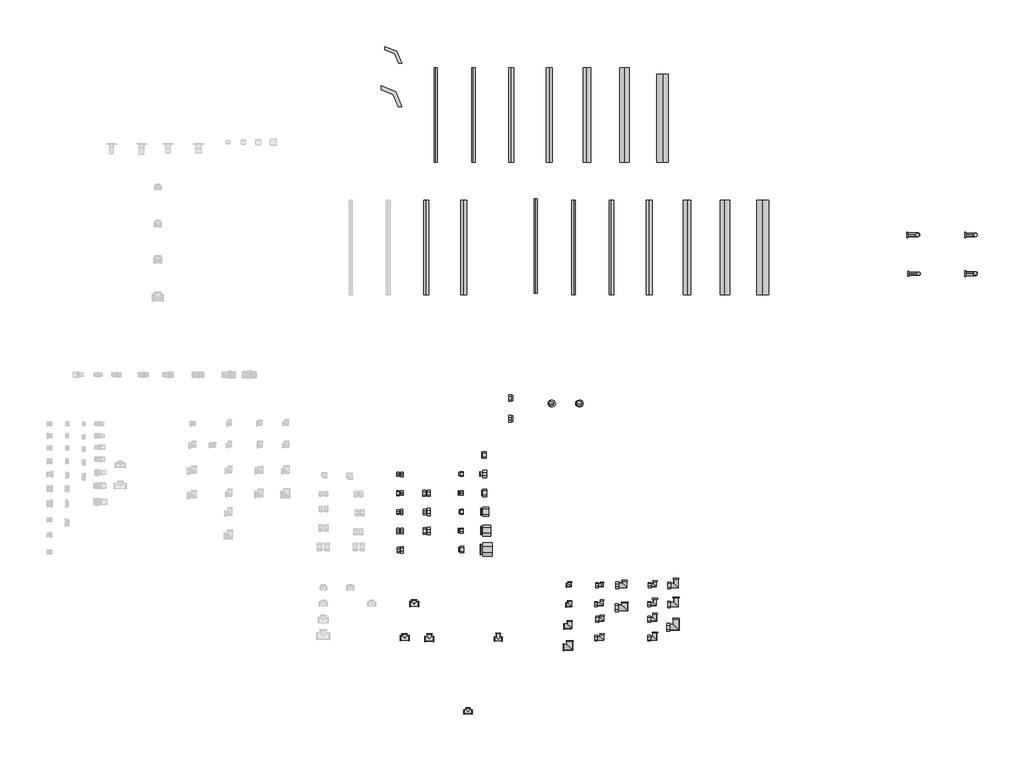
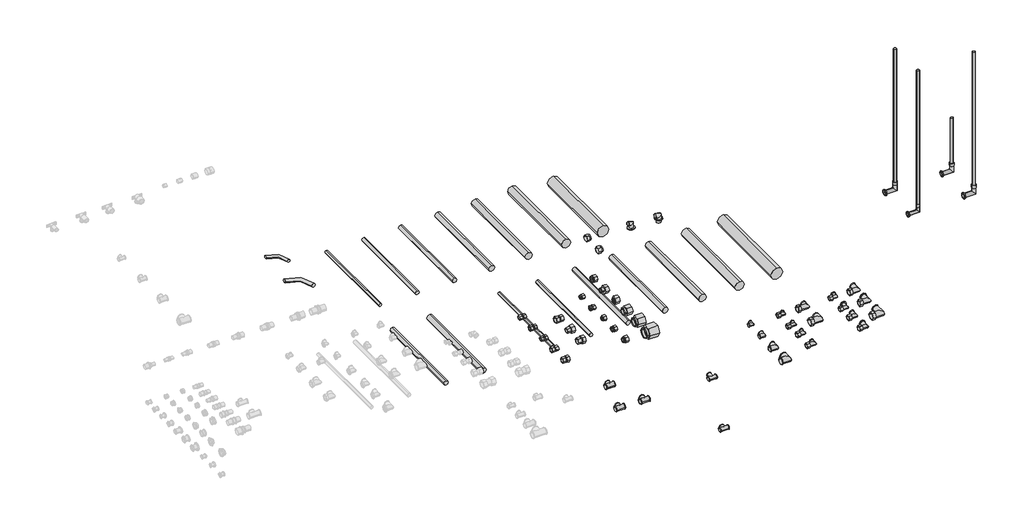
# One storey, part 2 of 2: 51 pipe fittings, 16 pipe segments.
"""IFC4 building model written with IfcOpenShell, lengths in millimetres."""

from ifc_helpers import new_model, si_unit, point, frame, frame_2d, origin, place, context, project, spatial, circle_curve, trimmed, segment, composite_curve, outline, extrude, transform, mapped, element, save
from components import pipe_fitting_9c1fe3d9, pipe_fitting_45a50b9d, pipe_fitting_a80298d2, pipe_fitting_690a4b69, pipe_fitting_7ec8b6cb, pipe_fitting_b8bb4d7d, pipe_fitting_d29ec8fa, pipe_fitting_c2aa8467, pipe_fitting_2d6e3a8b, pipe_fitting_7a30f251, pipe_fitting_783c9a87, pipe_fitting_5943d820, pipe_fitting_86cad487, pipe_fitting_5934a53c, pipe_fitting_7b19bd0a, pipe_fitting_65bbaa9c, pipe_fitting_54f7dc69, pipe_fitting_9e4dff9f, pipe_fitting_29d12cfd, pipe_fitting_99de46e3, pipe_fitting_2f3a7cc1, pipe_fitting_cb1ef815, pipe_fitting_f76eb3f4, pipe_fitting_43e11729, pipe_fitting_011efccd, pipe_fitting_cc2375a5, pipe_fitting_0f83558a, pipe_fitting_cd237506, pipe_fitting_084f18e1, pipe_fitting_0a08baca, pipe_fitting_afb65204, pipe_fitting_59298400, pipe_fitting_e6d99b17, pipe_fitting_ef594ddb, pipe_fitting_aac3be58, pipe_fitting_8643bd3e, pipe_fitting_bd96d94c, pipe_fitting_d6f7a5c7, pipe_fitting_07bd043f, pipe_fitting_ef469d3b, pipe_fitting_f7e817d6, pipe_fitting_8d19de3b, pipe_fitting_2b076fd0, pipe_fitting_389e3f89, pipe_fitting_b718b052, pipe_fitting_8d315068, pipe_fitting_1a4a2833, pipe_fitting_15_l300_x_20_2_8_8d4dec9b, pipe_fitting_15_l800_x_16_2_2_a7591855, pipe_fitting_15_l800_x_20_2_8_a4898562

model = new_model("IFC4")

# Units and contexts
model_context = context("Model", 3, world=origin())
ifc_project = project(units=[si_unit("LENGTHUNIT", "METRE", prefix="MILLI")], contexts=[model_context])

# Site, building, storey
site = spatial("IfcSite", under=ifc_project)
building = spatial("IfcBuilding", under=site)
storey = spatial("IfcBuildingStorey", under=building, Name="Уровень 1", Elevation=0.0)

# Pipe fittings
placement = place(None, origin())
pipe_fitting_shape = pipe_fitting_9c1fe3d9(model_context)
element("IfcPipeFitting", 1, ObjectType="БИР ПЕКС_Изгиб трубопровода_5D : Изгиб", at=placement, inside=storey, context=model_context, shape_type="MappedRepresentation", body=[
    mapped(pipe_fitting_shape, transform((25.6390292, 4800.8531594, 0.0), x_axis=(0.0, 1.0000000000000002, 0.0), y_axis=(-1.0000000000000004, 0.0, 0.0), z_axis=(0.0, 0.0, 1.0000000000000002))),
])
pipe_fitting_2_shape = pipe_fitting_45a50b9d(model_context)
element("IfcPipeFitting", 2, ObjectType="БИР ПЕКС_КМП_Фитинг уплотнительный_Евроконус : Фитинг уплотнительный_Евроконус", at=placement, inside=storey, context=model_context, shape_type="MappedRepresentation", body=[
    mapped(pipe_fitting_2_shape, transform((622.0708167, 3160.0827159, 1000.0), x_axis=(1.0, 0.0, 0.0), y_axis=(0.0, 1.0, 0.0), z_axis=(0.0, 0.0, 1.0))),
])
pipe_fitting_3_shape = pipe_fitting_a80298d2(model_context)
element("IfcPipeFitting", 3, ObjectType="БИР ПЕКС_КМП_Угольник установочный 105 : Угольник установочный 105° 1/2\" х 16 (2,2)", at=placement, inside=storey, context=model_context, shape_type="MappedRepresentation", body=[
    mapped(pipe_fitting_3_shape, transform((828.374765, 3130.3924607, 1000.0), x_axis=(1.0, 0.0, 0.0), y_axis=(0.0, 1.0, 0.0), z_axis=(0.0, 0.0, 1.0))),
])
pipe_fitting_4_shape = pipe_fitting_690a4b69(model_context)
element("IfcPipeFitting", 4, ObjectType="БИР ПЕКС_КМП_Угольник установочный 100 : Угольник установочный 100° 1/2\" х 20 (2,8)", at=placement, inside=storey, context=model_context, shape_type="MappedRepresentation", body=[
    mapped(pipe_fitting_4_shape, transform((975.9171353, 3130.3924607, 1000.0), x_axis=(1.0, 0.0, 0.0), y_axis=(0.0, 1.0, 0.0), z_axis=(0.0, 0.0, 1.0))),
])
pipe_fitting_5_shape = pipe_fitting_7ec8b6cb(model_context)
element("IfcPipeFitting", 5, ObjectType="БИР ПЕКС_Изгиб трубопровода_5D : Изгиб", at=placement, inside=storey, context=model_context, shape_type="MappedRepresentation", body=[
    mapped(pipe_fitting_5_shape, transform((25.6390292, 5010.8531594, 0.0), x_axis=(0.0, 1.0000000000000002, 0.0), y_axis=(-1.0000000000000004, 0.0, 0.0), z_axis=(0.0, 0.0, 1.0000000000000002))),
])
pipe_fitting_6_shape = pipe_fitting_b8bb4d7d(model_context)
element("IfcPipeFitting", 6, ObjectType="БИР ПЕКС_КМП_Соединитель_Резьба_Внутренняя : Соединитель прямой с внутренней резьбой_КМП", at=placement, inside=storey, context=model_context, shape_type="MappedRepresentation", body=[
    mapped(pipe_fitting_6_shape, transform((28.7080397, 2756.0051645, 1000.0), x_axis=(1.0, 0.0, 0.0), y_axis=(0.0, 1.0, 0.0), z_axis=(0.0, 0.0, 1.0))),
])
pipe_fitting_7_shape = pipe_fitting_d29ec8fa(model_context)
element("IfcPipeFitting", 7, ObjectType="БИР ПЕКС_КМП_Соединитель_Резьба_Внутренняя : Соединитель прямой с внутренней резьбой_КМП", at=placement, inside=storey, context=model_context, shape_type="MappedRepresentation", body=[
    mapped(pipe_fitting_7_shape, transform((28.7080397, 2656.0051645, 1000.0), x_axis=(1.0, 0.0, 0.0), y_axis=(0.0, 1.0, 0.0), z_axis=(0.0, 0.0, 1.0))),
])
pipe_fitting_8_shape = pipe_fitting_c2aa8467(model_context)
element("IfcPipeFitting", 8, ObjectType="БИР ПЕКС_КМП_Соединитель_Резьба_Внутренняя : Соединитель прямой с внутренней резьбой_КМП", at=placement, inside=storey, context=model_context, shape_type="MappedRepresentation", body=[
    mapped(pipe_fitting_8_shape, transform((28.7080397, 2556.0051645, 1000.0), x_axis=(1.0, 0.0, 0.0), y_axis=(0.0, 1.0, 0.0), z_axis=(0.0, 0.0, 1.0))),
])
pipe_fitting_9_shape = pipe_fitting_2d6e3a8b(model_context)
element("IfcPipeFitting", 9, ObjectType="БИР ПЕКС_КМП_Соединитель_Резьба_Внутренняя : Соединитель прямой с внутренней резьбой_КМП", at=placement, inside=storey, context=model_context, shape_type="MappedRepresentation", body=[
    mapped(pipe_fitting_9_shape, transform((28.7080397, 2456.0051645, 1000.0), x_axis=(1.0, 0.0, 0.0), y_axis=(0.0, 1.0, 0.0), z_axis=(0.0, 0.0, 1.0))),
])
pipe_fitting_10_shape = pipe_fitting_7a30f251(model_context)
element("IfcPipeFitting", 10, ObjectType="БИР ПЕКС_КМП_Соединитель_Резьба_Внутренняя : Соединитель прямой с внутренней резьбой_КМП", at=placement, inside=storey, context=model_context, shape_type="MappedRepresentation", body=[
    mapped(pipe_fitting_10_shape, transform((168.7080397, 2456.0051645, 1000.0), x_axis=(1.0, 0.0, 0.0), y_axis=(0.0, 1.0, 0.0), z_axis=(0.0, 0.0, 1.0))),
])
pipe_fitting_11_shape = pipe_fitting_783c9a87(model_context)
element("IfcPipeFitting", 11, ObjectType="БИР ПЕКС_КМП_Соединитель_Резьба_Внутренняя : Соединитель прямой с внутренней резьбой_КМП", at=placement, inside=storey, context=model_context, shape_type="MappedRepresentation", body=[
    mapped(pipe_fitting_11_shape, transform((168.7080397, 2556.0051645, 1000.0), x_axis=(1.0, 0.0, 0.0), y_axis=(0.0, 1.0, 0.0), z_axis=(0.0, 0.0, 1.0))),
])
pipe_fitting_12_shape = pipe_fitting_5943d820(model_context)
element("IfcPipeFitting", 12, ObjectType="БИР ПЕКС_КМП_Соединитель_Резьба_Внутренняя : Соединитель прямой с внутренней резьбой_КМП", at=placement, inside=storey, context=model_context, shape_type="MappedRepresentation", body=[
    mapped(pipe_fitting_12_shape, transform((168.7080397, 2656.0051645, 1000.0), x_axis=(1.0, 0.0, 0.0), y_axis=(0.0, 1.0, 0.0), z_axis=(0.0, 0.0, 1.0))),
])
pipe_fitting_13_shape = pipe_fitting_86cad487(model_context)
element("IfcPipeFitting", 13, ObjectType="БИР ПЕКС_КМП_Тройник ПЕКС : Тройник ПЕКС_КМП", at=placement, inside=storey, context=model_context, shape_type="MappedRepresentation", body=[
    mapped(pipe_fitting_13_shape, transform((99.8353821, 2069.3567431, 1000.0), x_axis=(1.0, 0.0, 0.0), y_axis=(0.0, 1.0, 0.0), z_axis=(0.0, 0.0, 1.0))),
])
pipe_fitting_14_shape = pipe_fitting_5934a53c(model_context)
element("IfcPipeFitting", 14, ObjectType="БИР ПЕКС_КМП_Тройник ПЕКС : Тройник ПЕКС_КМП", at=placement, inside=storey, context=model_context, shape_type="MappedRepresentation", body=[
    mapped(pipe_fitting_14_shape, transform((49.8353821, 1889.3567431, 1000.0), x_axis=(1.0, 0.0, 0.0), y_axis=(0.0, 1.0, 0.0), z_axis=(0.0, 0.0, 1.0))),
])
pipe_fitting_15_shape = pipe_fitting_7b19bd0a(model_context)
element("IfcPipeFitting", 15, ObjectType="БИР ПЕКС_КМП_Тройник ПЕКС : Тройник ПЕКС_КМП", at=placement, inside=storey, context=model_context, shape_type="MappedRepresentation", body=[
    mapped(pipe_fitting_15_shape, transform((180.8353821, 1885.3567431, 1000.0), x_axis=(1.0, 0.0, 0.0), y_axis=(0.0, 1.0, 0.0), z_axis=(0.0, 0.0, 1.0))),
])
pipe_fitting_16_shape = pipe_fitting_65bbaa9c(model_context)
element("IfcPipeFitting", 16, ObjectType="БИР ПЕКС_КМП_Тройник_НР : Тройник с наружной резьбой_КМП", at=placement, inside=storey, context=model_context, shape_type="MappedRepresentation", body=[
    mapped(pipe_fitting_16_shape, transform((545.1064616, 1884.4957117, 1000.0), x_axis=(1.0, 0.0, 0.0), y_axis=(0.0, 1.0, 0.0), z_axis=(0.0, 0.0, 1.0))),
])
pipe_fitting_17_shape = pipe_fitting_54f7dc69(model_context)
element("IfcPipeFitting", 17, ObjectType="БИР ПЕКС_КМП_Тройник_ВР : Тройник с внутренней резьбой_КМП", at=placement, inside=storey, context=model_context, shape_type="MappedRepresentation", body=[
    mapped(pipe_fitting_17_shape, transform((385.4136132, 1499.6853816, 1000.0), x_axis=(1.0, 0.0, 0.0), y_axis=(0.0, 1.0, 0.0), z_axis=(0.0, 0.0, 1.0))),
])
pipe_fitting_18_shape = pipe_fitting_9e4dff9f(model_context)
element("IfcPipeFitting", 18, ObjectType="БИР ПЕКС_КМП_Соединитель_Резьба_Наружная : Соединитель прямой с наружной резьбой_КМП", at=placement, inside=storey, context=model_context, shape_type="MappedRepresentation", body=[
    mapped(pipe_fitting_18_shape, transform((344.2739988, 2757.8918498, 1000.0), x_axis=(1.0, 0.0, 0.0), y_axis=(0.0, 1.0, 0.0), z_axis=(0.0, 0.0, 1.0))),
])
pipe_fitting_19_shape = pipe_fitting_29d12cfd(model_context)
element("IfcPipeFitting", 19, ObjectType="БИР ПЕКС_КМП_Соединитель_Резьба_Наружная : Соединитель прямой с наружной резьбой_КМП", at=placement, inside=storey, context=model_context, shape_type="MappedRepresentation", body=[
    mapped(pipe_fitting_19_shape, transform((344.2739988, 2657.8918498, 1000.0), x_axis=(1.0, 0.0, 0.0), y_axis=(0.0, 1.0, 0.0), z_axis=(0.0, 0.0, 1.0))),
])
pipe_fitting_20_shape = pipe_fitting_99de46e3(model_context)
element("IfcPipeFitting", 20, ObjectType="БИР ПЕКС_КМП_Соединитель_Резьба_Наружная : Соединитель прямой с наружной резьбой_КМП", at=placement, inside=storey, context=model_context, shape_type="MappedRepresentation", body=[
    mapped(pipe_fitting_20_shape, transform((344.2739988, 2557.8918498, 1000.0), x_axis=(1.0, 0.0, 0.0), y_axis=(0.0, 1.0, 0.0), z_axis=(0.0, 0.0, 1.0))),
])
pipe_fitting_21_shape = pipe_fitting_2f3a7cc1(model_context)
element("IfcPipeFitting", 21, ObjectType="БИР ПЕКС_КМП_Соединитель_Резьба_Наружная : Соединитель прямой с наружной резьбой_КМП", at=placement, inside=storey, context=model_context, shape_type="MappedRepresentation", body=[
    mapped(pipe_fitting_21_shape, transform((344.2739988, 2457.8918498, 1000.0), x_axis=(1.0, 0.0, 0.0), y_axis=(0.0, 1.0, 0.0), z_axis=(0.0, 0.0, 1.0))),
])
pipe_fitting_22_shape = pipe_fitting_cb1ef815(model_context)
element("IfcPipeFitting", 22, ObjectType="БИР ПЕКС_КМП_Соединитель_Резьба_Наружная : Соединитель прямой с наружной резьбой_КМП", at=placement, inside=storey, context=model_context, shape_type="MappedRepresentation", body=[
    mapped(pipe_fitting_22_shape, transform((464.2739988, 2357.8918498, 1000.0), x_axis=(1.0, 0.0, 0.0), y_axis=(0.0, 1.0, 0.0), z_axis=(0.0, 0.0, 1.0))),
])
pipe_fitting_23_shape = pipe_fitting_f76eb3f4(model_context)
element("IfcPipeFitting", 23, ObjectType="БИР ПЕКС_КМП_Соединитель_Резьба_Наружная : Соединитель прямой с наружной резьбой_КМП", at=placement, inside=storey, context=model_context, shape_type="MappedRepresentation", body=[
    mapped(pipe_fitting_23_shape, transform((464.2739988, 2457.8918498, 1000.0), x_axis=(1.0, 0.0, 0.0), y_axis=(0.0, 1.0, 0.0), z_axis=(0.0, 0.0, 1.0))),
])
pipe_fitting_24_shape = pipe_fitting_43e11729(model_context)
element("IfcPipeFitting", 24, ObjectType="БИР ПЕКС_КМП_Соединитель_Резьба_Наружная : Соединитель прямой с наружной резьбой_КМП", at=placement, inside=storey, context=model_context, shape_type="MappedRepresentation", body=[
    mapped(pipe_fitting_24_shape, transform((464.2739988, 2557.8918498, 1000.0), x_axis=(1.0, 0.0, 0.0), y_axis=(0.0, 1.0, 0.0), z_axis=(0.0, 0.0, 1.0))),
])
pipe_fitting_25_shape = pipe_fitting_011efccd(model_context)
element("IfcPipeFitting", 25, ObjectType="БИР ПЕКС_КМП_Соединитель_Резьба_Наружная : Соединитель прямой с наружной резьбой_КМП", at=placement, inside=storey, context=model_context, shape_type="MappedRepresentation", body=[
    mapped(pipe_fitting_25_shape, transform((464.2739988, 2657.8918498, 1000.0), x_axis=(1.0, 0.0, 0.0), y_axis=(0.0, 1.0, 0.0), z_axis=(0.0, 0.0, 1.0))),
])
pipe_fitting_26_shape = pipe_fitting_cc2375a5(model_context)
element("IfcPipeFitting", 26, ObjectType="БИР ПЕКС_КМП_Соединитель_Резьба_Наружная : Соединитель прямой с наружной резьбой_КМП", at=placement, inside=storey, context=model_context, shape_type="MappedRepresentation", body=[
    mapped(pipe_fitting_26_shape, transform((464.2739988, 2757.8918498, 1000.0), x_axis=(1.0, 0.0, 0.0), y_axis=(0.0, 1.0, 0.0), z_axis=(0.0, 0.0, 1.0))),
])
pipe_fitting_27_shape = pipe_fitting_0f83558a(model_context)
element("IfcPipeFitting", 27, ObjectType="БИР ПЕКС_КМП_Соединитель_Резьба_Наружная : Соединитель прямой с наружной резьбой_КМП", at=placement, inside=storey, context=model_context, shape_type="MappedRepresentation", body=[
    mapped(pipe_fitting_27_shape, transform((464.2739988, 2857.8918498, 1000.0), x_axis=(1.0, 0.0, 0.0), y_axis=(0.0, 1.0, 0.0), z_axis=(0.0, 0.0, 1.0))),
])
pipe_fitting_28_shape = pipe_fitting_cd237506(model_context)
element("IfcPipeFitting", 28, ObjectType="БИР ПЕКС_КМП_Угольник ПЕКС : Угольник ПЕКС_КМП", at=placement, inside=storey, context=model_context, shape_type="MappedRepresentation", body=[
    mapped(pipe_fitting_28_shape, transform((922.7062053, 2169.2332983, 1000.0), x_axis=(1.0, 0.0, 0.0), y_axis=(0.0, 1.0, 0.0), z_axis=(0.0, 0.0, 1.0))),
])
pipe_fitting_29_shape = pipe_fitting_084f18e1(model_context)
element("IfcPipeFitting", 29, ObjectType="БИР ПЕКС_КМП_Угольник ПЕКС : Угольник ПЕКС_КМП", at=placement, inside=storey, context=model_context, shape_type="MappedRepresentation", body=[
    mapped(pipe_fitting_29_shape, transform((922.7062053, 1951.9883048, 1000.0), x_axis=(1.0, 0.0, 0.0), y_axis=(0.0, 1.0, 0.0), z_axis=(0.0, 0.0, 1.0))),
])
pipe_fitting_30_shape = pipe_fitting_0a08baca(model_context)
element("IfcPipeFitting", 30, ObjectType="БИР ПЕКС_КМП_Угольник ПЕКС : Угольник ПЕКС_КМП", at=placement, inside=storey, context=model_context, shape_type="MappedRepresentation", body=[
    mapped(pipe_fitting_30_shape, transform((922.7062053, 1841.4906367, 1000.0), x_axis=(1.0, 0.0, 0.0), y_axis=(0.0, 1.0, 0.0), z_axis=(0.0, 0.0, 1.0))),
])
pipe_fitting_31_shape = pipe_fitting_afb65204(model_context)
element("IfcPipeFitting", 31, ObjectType="БИР ПЕКС_КМП_Угольник_Резьба_Внутренняя : Угольник с внутренней резьбой_КМП", at=placement, inside=storey, context=model_context, shape_type="MappedRepresentation", body=[
    mapped(pipe_fitting_31_shape, transform((1093.5981677, 2169.2332983, 1000.0), x_axis=(1.0, 0.0, 0.0), y_axis=(0.0, 1.0, 0.0), z_axis=(0.0, 0.0, 1.0))),
])
pipe_fitting_32_shape = pipe_fitting_59298400(model_context)
element("IfcPipeFitting", 32, ObjectType="БИР ПЕКС_КМП_Угольник_Резьба_Внутренняя : Угольник с внутренней резьбой_КМП", at=placement, inside=storey, context=model_context, shape_type="MappedRepresentation", body=[
    mapped(pipe_fitting_32_shape, transform((1093.5981677, 1889.2332983, 1000.0), x_axis=(1.0, 0.0, 0.0), y_axis=(0.0, 1.0, 0.0), z_axis=(0.0, 0.0, 1.0))),
])
pipe_fitting_33_shape = pipe_fitting_e6d99b17(model_context)
element("IfcPipeFitting", 33, ObjectType="БИР ПЕКС_КМП_Угольник_Резьба_Внутренняя : Угольник с внутренней резьбой_КМП", at=placement, inside=storey, context=model_context, shape_type="MappedRepresentation", body=[
    mapped(pipe_fitting_33_shape, transform((1093.5981677, 1989.2332983, 1000.0), x_axis=(1.0, 0.0, 0.0), y_axis=(0.0, 1.0, 0.0), z_axis=(0.0, 0.0, 1.0))),
])
pipe_fitting_34_shape = pipe_fitting_ef594ddb(model_context)
element("IfcPipeFitting", 34, ObjectType="БИР ПЕКС_КМП_Угольник_Резьба_Внутренняя : Угольник с внутренней резьбой_КМП", at=placement, inside=storey, context=model_context, shape_type="MappedRepresentation", body=[
    mapped(pipe_fitting_34_shape, transform((1213.5981677, 2169.2332983, 1000.0), x_axis=(1.0, 0.0, 0.0), y_axis=(0.0, 1.0, 0.0), z_axis=(0.0, 0.0, 1.0))),
])
pipe_fitting_35_shape = pipe_fitting_aac3be58(model_context)
element("IfcPipeFitting", 35, ObjectType="БИР ПЕКС_КМП_Угольник_Резьба_Внутренняя : Угольник с внутренней резьбой_КМП", at=placement, inside=storey, context=model_context, shape_type="MappedRepresentation", body=[
    mapped(pipe_fitting_35_shape, transform((1213.5981677, 2049.2332983, 1000.0), x_axis=(1.0, 0.0, 0.0), y_axis=(0.0, 1.0, 0.0), z_axis=(0.0, 0.0, 1.0))),
])
pipe_fitting_36_shape = pipe_fitting_8643bd3e(model_context)
element("IfcPipeFitting", 36, ObjectType="БИР ПЕКС_КМП_Угольник_Резьба_Наружная : Угольник с наружной резьбой_КМП", at=placement, inside=storey, context=model_context, shape_type="MappedRepresentation", body=[
    mapped(pipe_fitting_36_shape, transform((1373.5981677, 2169.2332983, 1000.0), x_axis=(1.0, 0.0, 0.0), y_axis=(0.0, 1.0, 0.0), z_axis=(0.0, 0.0, 1.0))),
])
pipe_fitting_37_shape = pipe_fitting_bd96d94c(model_context)
element("IfcPipeFitting", 37, ObjectType="БИР ПЕКС_КМП_Угольник_Резьба_Наружная : Угольник с наружной резьбой_КМП", at=placement, inside=storey, context=model_context, shape_type="MappedRepresentation", body=[
    mapped(pipe_fitting_37_shape, transform((1373.5981677, 1889.2332983, 1000.0), x_axis=(1.0, 0.0, 0.0), y_axis=(0.0, 1.0, 0.0), z_axis=(0.0, 0.0, 1.0))),
])
pipe_fitting_38_shape = pipe_fitting_d6f7a5c7(model_context)
element("IfcPipeFitting", 38, ObjectType="БИР ПЕКС_КМП_Угольник_Резьба_Наружная : Угольник с наружной резьбой_КМП", at=placement, inside=storey, context=model_context, shape_type="MappedRepresentation", body=[
    mapped(pipe_fitting_38_shape, transform((1373.5981677, 1989.2332983, 1000.0), x_axis=(1.0, 0.0, 0.0), y_axis=(0.0, 1.0, 0.0), z_axis=(0.0, 0.0, 1.0))),
])
pipe_fitting_39_shape = pipe_fitting_07bd043f(model_context)
element("IfcPipeFitting", 39, ObjectType="БИР ПЕКС_КМП_Угольник_Резьба_Наружная : Угольник с наружной резьбой_КМП", at=placement, inside=storey, context=model_context, shape_type="MappedRepresentation", body=[
    mapped(pipe_fitting_39_shape, transform((1485.9801457, 2167.3884547, 1000.0), x_axis=(1.0, 0.0, 0.0), y_axis=(0.0, 1.0, 0.0), z_axis=(0.0, 0.0, 1.0))),
])
pipe_fitting_40_shape = pipe_fitting_ef469d3b(model_context)
element("IfcPipeFitting", 40, ObjectType="БИР ПЕКС_КМП_Угольник_Резьба_Наружная : Угольник с наружной резьбой_КМП", at=placement, inside=storey, context=model_context, shape_type="MappedRepresentation", body=[
    mapped(pipe_fitting_40_shape, transform((1485.9801457, 2067.3884547, 1000.0), x_axis=(1.0, 0.0, 0.0), y_axis=(0.0, 1.0, 0.0), z_axis=(0.0, 0.0, 1.0))),
])
pipe_fitting_41_shape = pipe_fitting_f7e817d6(model_context)
element("IfcPipeFitting", 41, ObjectType="БИР ПЕКС_КМП_Угольник_Резьба_Наружная : Угольник с наружной резьбой_КМП", at=placement, inside=storey, context=model_context, shape_type="MappedRepresentation", body=[
    mapped(pipe_fitting_41_shape, transform((1485.9801457, 1947.3884547, 1000.0), x_axis=(1.0, 0.0, 0.0), y_axis=(0.0, 1.0, 0.0), z_axis=(0.0, 0.0, 1.0))),
])
pipe_fitting_42_shape = pipe_fitting_8d19de3b(model_context)
element("IfcPipeFitting", 42, ObjectType="БИР ПЕКС_КМП_Фитинг уплотнительный_Евроконус : Фитинг уплотнительный_Евроконус", at=placement, inside=storey, context=model_context, shape_type="MappedRepresentation", body=[
    mapped(pipe_fitting_42_shape, transform((622.0708167, 3050.0827159, 1000.0), x_axis=(1.0, 0.0, 0.0), y_axis=(0.0, 1.0, 0.0), z_axis=(0.0, 0.0, 1.0))),
])
pipe_fitting_43_shape = pipe_fitting_2b076fd0(model_context)
element("IfcPipeFitting", 43, ObjectType="БИР ПЕКС_КМП_Соединитель_Резьба_Внутренняя : Соединитель прямой с внутренней резьбой_КМП", at=placement, inside=storey, context=model_context, shape_type="MappedRepresentation", body=[
    mapped(pipe_fitting_43_shape, transform((28.7080397, 2356.0051645, 1000.0), x_axis=(1.0, 0.0, 0.0), y_axis=(0.0, 1.0, 0.0), z_axis=(0.0, 0.0, 1.0))),
])
pipe_fitting_44_shape = pipe_fitting_389e3f89(model_context)
element("IfcPipeFitting", 44, ObjectType="БИР ПЕКС_КМП_Соединитель_Резьба_Наружная : Соединитель прямой с наружной резьбой_КМП", at=placement, inside=storey, context=model_context, shape_type="MappedRepresentation", body=[
    mapped(pipe_fitting_44_shape, transform((344.2739988, 2357.8918498, 1000.0), x_axis=(1.0, 0.0, 0.0), y_axis=(0.0, 1.0, 0.0), z_axis=(0.0, 0.0, 1.0))),
])
pipe_fitting_45_shape = pipe_fitting_b718b052(model_context)
element("IfcPipeFitting", 45, ObjectType="БИР ПЕКС_КМП_Угольник ПЕКС : Угольник ПЕКС_КМП", at=placement, inside=storey, context=model_context, shape_type="MappedRepresentation", body=[
    mapped(pipe_fitting_45_shape, transform((922.7062053, 2065.7359044, 1000.0), x_axis=(1.0, 0.0, 0.0), y_axis=(0.0, 1.0, 0.0), z_axis=(0.0, 0.0, 1.0))),
])
pipe_fitting_46_shape = pipe_fitting_8d315068(model_context)
element("IfcPipeFitting", 46, ObjectType="БИР ПЕКС_КМП_Угольник_Резьба_Внутренняя : Угольник с внутренней резьбой_КМП", at=placement, inside=storey, context=model_context, shape_type="MappedRepresentation", body=[
    mapped(pipe_fitting_46_shape, transform((1093.5981677, 2069.2332983, 1000.0), x_axis=(1.0, 0.0, 0.0), y_axis=(0.0, 1.0, 0.0), z_axis=(0.0, 0.0, 1.0))),
])
pipe_fitting_47_shape = pipe_fitting_1a4a2833(model_context)
element("IfcPipeFitting", 47, ObjectType="БИР ПЕКС_КМП_Угольник_Резьба_Наружная : Угольник с наружной резьбой_КМП", at=placement, inside=storey, context=model_context, shape_type="MappedRepresentation", body=[
    mapped(pipe_fitting_47_shape, transform((1373.5981677, 2069.2332983, 1000.0), x_axis=(1.0, 0.0, 0.0), y_axis=(0.0, 1.0, 0.0), z_axis=(0.0, 0.0, 1.0))),
])
pipe_fitting_15_l300_x_20_2_8_shape = pipe_fitting_15_l300_x_20_2_8_8d4dec9b(model_context)
element("IfcPipeFitting", 48, ObjectType="БИР ПЕКС_Трубка приборная_Г-образная : 15-L300 x 20 (2,8)", at=placement, inside=storey, context=model_context, shape_type="MappedRepresentation", body=[
    mapped(pipe_fitting_15_l300_x_20_2_8_shape, transform((3068.9880179, 4022.7500315, 0.0), x_axis=(1.0, 0.0, 0.0), y_axis=(0.0, 1.0, 0.0), z_axis=(0.0, 0.0, 1.0))),
])
pipe_fitting_15_l800_x_16_2_2_shape = pipe_fitting_15_l800_x_16_2_2_a7591855(model_context)
element("IfcPipeFitting", 49, ObjectType="БИР ПЕКС_Трубка приборная_Г-образная : 15-L800 x 16 (2,2)", at=placement, inside=storey, context=model_context, shape_type="MappedRepresentation", body=[
    mapped(pipe_fitting_15_l800_x_16_2_2_shape, transform((2768.9880179, 3817.2594327, 0.0), x_axis=(1.0, 0.0, 0.0), y_axis=(0.0, 1.0, 0.0), z_axis=(0.0, 0.0, 1.0))),
])
pipe_fitting_15_l800_x_20_2_8_shape = pipe_fitting_15_l800_x_20_2_8_a4898562(model_context)
element("IfcPipeFitting", 50, ObjectType="БИР ПЕКС_Трубка приборная_Г-образная : 15-L800 x 20 (2,8)", at=placement, inside=storey, context=model_context, shape_type="MappedRepresentation", body=[
    mapped(pipe_fitting_15_l800_x_20_2_8_shape, transform((3068.9880179, 3817.2594327, 0.0), x_axis=(1.0, 0.0, 0.0), y_axis=(0.0, 1.0, 0.0), z_axis=(0.0, 0.0, 1.0))),
])
element("IfcPipeFitting", 51, ObjectType="БИР ПЕКС_Трубка приборная_Г-образная : 15-L800 x 20 (2,8)", at=placement, inside=storey, context=model_context, shape_type="MappedRepresentation", body=[
    mapped(pipe_fitting_15_l800_x_20_2_8_shape, transform((2763.6284989, 4022.7500315, 0.0), x_axis=(1.0, 0.0, 0.0), y_axis=(0.0, 1.0, 0.0), z_axis=(0.0, 0.0, 1.0))),
])

# Pipe segments
element("IfcPipeSegment", 52, ObjectType="БИР ПЕКС_Стандарт_Класс 5_PN 20_SDR 7,4", at=placement, inside=storey, context=model_context, shape_type="SweptSolid", body=[
    extrude(outline(composite_curve([segment(trimmed(circle_curve(frame_2d((0.0, 163.72304)), 12.5), [point((0.0, 176.22304))], [point((12.5, 163.72304))], False, "CARTESIAN"), True, "CONTINUOUS"), segment(trimmed(circle_curve(frame_2d((0.0, 163.72304)), 12.5), [point((12.5, 163.72304))], [point((0.0, 151.22304))], False, "CARTESIAN"), True, "CONTINUOUS"), segment(trimmed(circle_curve(frame_2d((0.0, 163.72304)), 12.5), [point((0.0, 151.22304))], [point((-12.5, 163.72304))], False, "CARTESIAN"), True, "CONTINUOUS"), segment(trimmed(circle_curve(frame_2d((0.0, 163.72304)), 12.5), [point((-12.5, 163.72304))], [point((0.0, 176.22304))], False, "CARTESIAN"), True, "CONTINUOUS")], self_intersect=False)), frame((0.0, 3704.8987353, 0.0), z_axis=(0.0, 1.0, 0.0), x_axis=(0.0, 0.0, 1.0)), (0.0, 0.0, 1.0), 500.0),
])
element("IfcPipeSegment", 53, ObjectType="БИР ПЕКС_Стандарт_Класс 5_PN 20_SDR 7,4", at=placement, inside=storey, context=model_context, shape_type="SweptSolid", body=[
    extrude(outline(composite_curve([segment(trimmed(circle_curve(frame_2d((0.0, 363.72304)), 16.0), [point((0.0, 379.72304))], [point((16.0, 363.72304))], False, "CARTESIAN"), True, "CONTINUOUS"), segment(trimmed(circle_curve(frame_2d((0.0, 363.72304)), 16.0), [point((16.0, 363.72304))], [point((0.0, 347.72304))], False, "CARTESIAN"), True, "CONTINUOUS"), segment(trimmed(circle_curve(frame_2d((0.0, 363.72304)), 16.0), [point((0.0, 347.72304))], [point((-16.0, 363.72304))], False, "CARTESIAN"), True, "CONTINUOUS"), segment(trimmed(circle_curve(frame_2d((0.0, 363.72304)), 16.0), [point((-16.0, 363.72304))], [point((0.0, 379.72304))], False, "CARTESIAN"), True, "CONTINUOUS")], self_intersect=False)), frame((0.0, 3704.8987353, 0.0), z_axis=(0.0, 1.0, 0.0), x_axis=(0.0, 0.0, 1.0)), (0.0, 0.0, 1.0), 500.0),
])
element("IfcPipeSegment", 54, ObjectType="БИР ПЕКС_Премиум_Класс 6_PN 22,4_SDR 7,4", at=placement, inside=storey, context=model_context, shape_type="SweptSolid", body=[
    extrude(outline(composite_curve([segment(trimmed(circle_curve(frame_2d((0.0, 743.72304)), 8.0), [point((0.0, 751.72304))], [point((8.0, 743.72304))], False, "CARTESIAN"), True, "CONTINUOUS"), segment(trimmed(circle_curve(frame_2d((0.0, 743.72304)), 8.0), [point((8.0, 743.72304))], [point((0.0, 735.72304))], False, "CARTESIAN"), True, "CONTINUOUS"), segment(trimmed(circle_curve(frame_2d((0.0, 743.72304)), 8.0), [point((0.0, 735.72304))], [point((-8.0, 743.72304))], False, "CARTESIAN"), True, "CONTINUOUS"), segment(trimmed(circle_curve(frame_2d((0.0, 743.72304)), 8.0), [point((-8.0, 743.72304))], [point((0.0, 751.72304))], False, "CARTESIAN"), True, "CONTINUOUS")], self_intersect=False)), frame((0.0, 3712.6487353, 0.0), z_axis=(0.0, 1.0, 0.0), x_axis=(0.0, 0.0, 1.0)), (0.0, 0.0, 1.0), 500.0),
])
element("IfcPipeSegment", 55, ObjectType="БИР ПЕКС_Премиум_Класс 6_PN 22,4_SDR 7,4", at=placement, inside=storey, context=model_context, shape_type="SweptSolid", body=[
    extrude(outline(composite_curve([segment(trimmed(circle_curve(frame_2d((0.0, 943.72304)), 10.0), [point((0.0, 953.72304))], [point((10.0, 943.72304))], False, "CARTESIAN"), True, "CONTINUOUS"), segment(trimmed(circle_curve(frame_2d((0.0, 943.72304)), 10.0), [point((10.0, 943.72304))], [point((0.0, 933.72304))], False, "CARTESIAN"), True, "CONTINUOUS"), segment(trimmed(circle_curve(frame_2d((0.0, 943.72304)), 10.0), [point((0.0, 933.72304))], [point((-10.0, 943.72304))], False, "CARTESIAN"), True, "CONTINUOUS"), segment(trimmed(circle_curve(frame_2d((0.0, 943.72304)), 10.0), [point((-10.0, 943.72304))], [point((0.0, 953.72304))], False, "CARTESIAN"), True, "CONTINUOUS")], self_intersect=False)), frame((0.0, 3704.8987353, 0.0), z_axis=(0.0, 1.0, 0.0), x_axis=(0.0, 0.0, 1.0)), (0.0, 0.0, 1.0), 500.0),
])
element("IfcPipeSegment", 56, ObjectType="БИР ПЕКС_Премиум_Класс 6_PN 22,4_SDR 7,4", at=placement, inside=storey, context=model_context, shape_type="SweptSolid", body=[
    extrude(outline(composite_curve([segment(trimmed(circle_curve(frame_2d((0.0, 1143.72304)), 12.5), [point((0.0, 1156.22304))], [point((12.5, 1143.72304))], False, "CARTESIAN"), True, "CONTINUOUS"), segment(trimmed(circle_curve(frame_2d((0.0, 1143.72304)), 12.5), [point((12.5, 1143.72304))], [point((0.0, 1131.22304))], False, "CARTESIAN"), True, "CONTINUOUS"), segment(trimmed(circle_curve(frame_2d((0.0, 1143.72304)), 12.5), [point((0.0, 1131.22304))], [point((-12.5, 1143.72304))], False, "CARTESIAN"), True, "CONTINUOUS"), segment(trimmed(circle_curve(frame_2d((0.0, 1143.72304)), 12.5), [point((-12.5, 1143.72304))], [point((0.0, 1156.22304))], False, "CARTESIAN"), True, "CONTINUOUS")], self_intersect=False)), frame((0.0, 3704.8987353, 0.0), z_axis=(0.0, 1.0, 0.0), x_axis=(0.0, 0.0, 1.0)), (0.0, 0.0, 1.0), 500.0),
])
element("IfcPipeSegment", 57, ObjectType="БИР ПЕКС_Премиум_Класс 6_PN 22,4_SDR 7,4", at=placement, inside=storey, context=model_context, shape_type="SweptSolid", body=[
    extrude(outline(composite_curve([segment(trimmed(circle_curve(frame_2d((0.0, 1343.72304)), 16.0), [point((0.0, 1359.72304))], [point((16.0, 1343.72304))], False, "CARTESIAN"), True, "CONTINUOUS"), segment(trimmed(circle_curve(frame_2d((0.0, 1343.72304)), 16.0), [point((16.0, 1343.72304))], [point((0.0, 1327.72304))], False, "CARTESIAN"), True, "CONTINUOUS"), segment(trimmed(circle_curve(frame_2d((0.0, 1343.72304)), 16.0), [point((0.0, 1327.72304))], [point((-16.0, 1343.72304))], False, "CARTESIAN"), True, "CONTINUOUS"), segment(trimmed(circle_curve(frame_2d((0.0, 1343.72304)), 16.0), [point((-16.0, 1343.72304))], [point((0.0, 1359.72304))], False, "CARTESIAN"), True, "CONTINUOUS")], self_intersect=False)), frame((0.0, 3704.8987353, 0.0), z_axis=(0.0, 1.0, 0.0), x_axis=(0.0, 0.0, 1.0)), (0.0, 0.0, 1.0), 500.0),
])
element("IfcPipeSegment", 58, ObjectType="БИР ПЕКС_Премиум_Класс 6_PN 22,4_SDR 7,4", at=placement, inside=storey, context=model_context, shape_type="SweptSolid", body=[
    extrude(outline(composite_curve([segment(trimmed(circle_curve(frame_2d((0.0, 1543.72304)), 20.0), [point((0.0, 1563.72304))], [point((20.0, 1543.72304))], False, "CARTESIAN"), True, "CONTINUOUS"), segment(trimmed(circle_curve(frame_2d((0.0, 1543.72304)), 20.0), [point((20.0, 1543.72304))], [point((0.0, 1523.72304))], False, "CARTESIAN"), True, "CONTINUOUS"), segment(trimmed(circle_curve(frame_2d((0.0, 1543.72304)), 20.0), [point((0.0, 1523.72304))], [point((-20.0, 1543.72304))], False, "CARTESIAN"), True, "CONTINUOUS"), segment(trimmed(circle_curve(frame_2d((0.0, 1543.72304)), 20.0), [point((-20.0, 1543.72304))], [point((0.0, 1563.72304))], False, "CARTESIAN"), True, "CONTINUOUS")], self_intersect=False)), frame((0.0, 3704.8987353, 0.0), z_axis=(0.0, 1.0, 0.0), x_axis=(0.0, 0.0, 1.0)), (0.0, 0.0, 1.0), 500.0),
])
element("IfcPipeSegment", 59, ObjectType="БИР ПЕКС_Премиум_Класс 6_PN 22,4_SDR 7,4", at=placement, inside=storey, context=model_context, shape_type="SweptSolid", body=[
    extrude(outline(composite_curve([segment(trimmed(circle_curve(frame_2d((0.0, 1743.72304)), 25.0), [point((0.0, 1768.72304))], [point((25.0, 1743.72304))], False, "CARTESIAN"), True, "CONTINUOUS"), segment(trimmed(circle_curve(frame_2d((0.0, 1743.72304)), 25.0), [point((25.0, 1743.72304))], [point((0.0, 1718.72304))], False, "CARTESIAN"), True, "CONTINUOUS"), segment(trimmed(circle_curve(frame_2d((0.0, 1743.72304)), 25.0), [point((0.0, 1718.72304))], [point((-25.0, 1743.72304))], False, "CARTESIAN"), True, "CONTINUOUS"), segment(trimmed(circle_curve(frame_2d((0.0, 1743.72304)), 25.0), [point((-25.0, 1743.72304))], [point((0.0, 1768.72304))], False, "CARTESIAN"), True, "CONTINUOUS")], self_intersect=False)), frame((0.0, 3704.8987353, 0.0), z_axis=(0.0, 1.0, 0.0), x_axis=(0.0, 0.0, 1.0)), (0.0, 0.0, 1.0), 500.0),
])
element("IfcPipeSegment", 60, ObjectType="БИР ПЕКС_Премиум_Класс 6_PN 22,4_SDR 7,4", at=placement, inside=storey, context=model_context, shape_type="SweptSolid", body=[
    extrude(outline(composite_curve([segment(trimmed(circle_curve(frame_2d((0.0, 1943.72304)), 31.5), [point((0.0, 1975.22304))], [point((31.5, 1943.72304))], False, "CARTESIAN"), True, "CONTINUOUS"), segment(trimmed(circle_curve(frame_2d((0.0, 1943.72304)), 31.5), [point((31.5, 1943.72304))], [point((0.0, 1912.22304))], False, "CARTESIAN"), True, "CONTINUOUS"), segment(trimmed(circle_curve(frame_2d((0.0, 1943.72304)), 31.5), [point((0.0, 1912.22304))], [point((-31.5, 1943.72304))], False, "CARTESIAN"), True, "CONTINUOUS"), segment(trimmed(circle_curve(frame_2d((0.0, 1943.72304)), 31.5), [point((-31.5, 1943.72304))], [point((0.0, 1975.22304))], False, "CARTESIAN"), True, "CONTINUOUS")], self_intersect=False)), frame((0.0, 3704.8987353, 0.0), z_axis=(0.0, 1.0, 0.0), x_axis=(0.0, 0.0, 1.0)), (0.0, 0.0, 1.0), 500.0),
])
element("IfcPipeSegment", 61, ObjectType="БИР ПЕКС_Премиум УФ-стоп_Класс 6_PN 22,4_SDR 7,4", at=placement, inside=storey, context=model_context, shape_type="SweptSolid", body=[
    extrude(outline(composite_curve([segment(trimmed(circle_curve(frame_2d((0.0, 214.1258197)), 8.0), [point((0.0, 222.1258197))], [point((8.0, 214.1258197))], False, "CARTESIAN"), True, "CONTINUOUS"), segment(trimmed(circle_curve(frame_2d((0.0, 214.1258197)), 8.0), [point((8.0, 214.1258197))], [point((0.0, 206.1258197))], False, "CARTESIAN"), True, "CONTINUOUS"), segment(trimmed(circle_curve(frame_2d((0.0, 214.1258197)), 8.0), [point((0.0, 206.1258197))], [point((-8.0, 214.1258197))], False, "CARTESIAN"), True, "CONTINUOUS"), segment(trimmed(circle_curve(frame_2d((0.0, 214.1258197)), 8.0), [point((-8.0, 214.1258197))], [point((0.0, 222.1258197))], False, "CARTESIAN"), True, "CONTINUOUS")], self_intersect=False)), frame((0.0, 4407.6979841, 0.0), z_axis=(0.0, 1.0, 0.0), x_axis=(0.0, 0.0, 1.0)), (0.0, 0.0, 1.0), 500.0),
])
element("IfcPipeSegment", 62, ObjectType="БИР ПЕКС_Премиум УФ-стоп_Класс 6_PN 22,4_SDR 7,4", at=placement, inside=storey, context=model_context, shape_type="SweptSolid", body=[
    extrude(outline(composite_curve([segment(trimmed(circle_curve(frame_2d((0.0, 414.1258197)), 10.0), [point((0.0, 424.1258197))], [point((10.0, 414.1258197))], False, "CARTESIAN"), True, "CONTINUOUS"), segment(trimmed(circle_curve(frame_2d((0.0, 414.1258197)), 10.0), [point((10.0, 414.1258197))], [point((0.0, 404.1258197))], False, "CARTESIAN"), True, "CONTINUOUS"), segment(trimmed(circle_curve(frame_2d((0.0, 414.1258197)), 10.0), [point((0.0, 404.1258197))], [point((-10.0, 414.1258197))], False, "CARTESIAN"), True, "CONTINUOUS"), segment(trimmed(circle_curve(frame_2d((0.0, 414.1258197)), 10.0), [point((-10.0, 414.1258197))], [point((0.0, 424.1258197))], False, "CARTESIAN"), True, "CONTINUOUS")], self_intersect=False)), frame((0.0, 4407.6979841, 0.0), z_axis=(0.0, 1.0, 0.0), x_axis=(0.0, 0.0, 1.0)), (0.0, 0.0, 1.0), 500.0),
])
element("IfcPipeSegment", 63, ObjectType="БИР ПЕКС_Премиум УФ-стоп_Класс 6_PN 22,4_SDR 7,4", at=placement, inside=storey, context=model_context, shape_type="SweptSolid", body=[
    extrude(outline(composite_curve([segment(trimmed(circle_curve(frame_2d((0.0, 614.1258197)), 12.5), [point((0.0, 626.6258197))], [point((12.5, 614.1258197))], False, "CARTESIAN"), True, "CONTINUOUS"), segment(trimmed(circle_curve(frame_2d((0.0, 614.1258197)), 12.5), [point((12.5, 614.1258197))], [point((0.0, 601.6258197))], False, "CARTESIAN"), True, "CONTINUOUS"), segment(trimmed(circle_curve(frame_2d((0.0, 614.1258197)), 12.5), [point((0.0, 601.6258197))], [point((-12.5, 614.1258197))], False, "CARTESIAN"), True, "CONTINUOUS"), segment(trimmed(circle_curve(frame_2d((0.0, 614.1258197)), 12.5), [point((-12.5, 614.1258197))], [point((0.0, 626.6258197))], False, "CARTESIAN"), True, "CONTINUOUS")], self_intersect=False)), frame((0.0, 4407.6979841, 0.0), z_axis=(0.0, 1.0, 0.0), x_axis=(0.0, 0.0, 1.0)), (0.0, 0.0, 1.0), 500.0),
])
element("IfcPipeSegment", 64, ObjectType="БИР ПЕКС_Премиум УФ-стоп_Класс 6_PN 22,4_SDR 7,4", at=placement, inside=storey, context=model_context, shape_type="SweptSolid", body=[
    extrude(outline(composite_curve([segment(trimmed(circle_curve(frame_2d((0.0, 814.1258197)), 16.0), [point((0.0, 830.1258197))], [point((16.0, 814.1258197))], False, "CARTESIAN"), True, "CONTINUOUS"), segment(trimmed(circle_curve(frame_2d((0.0, 814.1258197)), 16.0), [point((16.0, 814.1258197))], [point((0.0, 798.1258197))], False, "CARTESIAN"), True, "CONTINUOUS"), segment(trimmed(circle_curve(frame_2d((0.0, 814.1258197)), 16.0), [point((0.0, 798.1258197))], [point((-16.0, 814.1258197))], False, "CARTESIAN"), True, "CONTINUOUS"), segment(trimmed(circle_curve(frame_2d((0.0, 814.1258197)), 16.0), [point((-16.0, 814.1258197))], [point((0.0, 830.1258197))], False, "CARTESIAN"), True, "CONTINUOUS")], self_intersect=False)), frame((0.0, 4407.6979841, 0.0), z_axis=(0.0, 1.0, 0.0), x_axis=(0.0, 0.0, 1.0)), (0.0, 0.0, 1.0), 500.0),
])
element("IfcPipeSegment", 65, ObjectType="БИР ПЕКС_Премиум УФ-стоп_Класс 6_PN 22,4_SDR 7,4", at=placement, inside=storey, context=model_context, shape_type="SweptSolid", body=[
    extrude(outline(composite_curve([segment(trimmed(circle_curve(frame_2d((0.0, 1014.1258197)), 20.0), [point((0.0, 1034.1258197))], [point((20.0, 1014.1258197))], False, "CARTESIAN"), True, "CONTINUOUS"), segment(trimmed(circle_curve(frame_2d((0.0, 1014.1258197)), 20.0), [point((20.0, 1014.1258197))], [point((0.0, 994.1258197))], False, "CARTESIAN"), True, "CONTINUOUS"), segment(trimmed(circle_curve(frame_2d((0.0, 1014.1258197)), 20.0), [point((0.0, 994.1258197))], [point((-20.0, 1014.1258197))], False, "CARTESIAN"), True, "CONTINUOUS"), segment(trimmed(circle_curve(frame_2d((0.0, 1014.1258197)), 20.0), [point((-20.0, 1014.1258197))], [point((0.0, 1034.1258197))], False, "CARTESIAN"), True, "CONTINUOUS")], self_intersect=False)), frame((0.0, 4407.6979841, 0.0), z_axis=(0.0, 1.0, 0.0), x_axis=(0.0, 0.0, 1.0)), (0.0, 0.0, 1.0), 500.0),
])
element("IfcPipeSegment", 66, ObjectType="БИР ПЕКС_Премиум УФ-стоп_Класс 6_PN 22,4_SDR 7,4", at=placement, inside=storey, context=model_context, shape_type="SweptSolid", body=[
    extrude(outline(composite_curve([segment(trimmed(circle_curve(frame_2d((0.0, 1214.1258197)), 25.0), [point((0.0, 1239.1258197))], [point((25.0, 1214.1258197))], False, "CARTESIAN"), True, "CONTINUOUS"), segment(trimmed(circle_curve(frame_2d((0.0, 1214.1258197)), 25.0), [point((25.0, 1214.1258197))], [point((0.0, 1189.1258197))], False, "CARTESIAN"), True, "CONTINUOUS"), segment(trimmed(circle_curve(frame_2d((0.0, 1214.1258197)), 25.0), [point((0.0, 1189.1258197))], [point((-25.0, 1214.1258197))], False, "CARTESIAN"), True, "CONTINUOUS"), segment(trimmed(circle_curve(frame_2d((0.0, 1214.1258197)), 25.0), [point((-25.0, 1214.1258197))], [point((0.0, 1239.1258197))], False, "CARTESIAN"), True, "CONTINUOUS")], self_intersect=False)), frame((0.0, 4407.6979841, 0.0), z_axis=(0.0, 1.0, 0.0), x_axis=(0.0, 0.0, 1.0)), (0.0, 0.0, 1.0), 500.0),
])
element("IfcPipeSegment", 67, ObjectType="БИР ПЕКС_Премиум УФ-стоп_Класс 6_PN 22,4_SDR 7,4", at=placement, inside=storey, context=model_context, shape_type="SweptSolid", body=[
    extrude(outline(composite_curve([segment(trimmed(circle_curve(frame_2d((0.0, 1414.1258197)), 31.5), [point((0.0, 1445.6258197))], [point((31.5, 1414.1258197))], False, "CARTESIAN"), True, "CONTINUOUS"), segment(trimmed(circle_curve(frame_2d((0.0, 1414.1258197)), 31.5), [point((31.5, 1414.1258197))], [point((0.0, 1382.6258197))], False, "CARTESIAN"), True, "CONTINUOUS"), segment(trimmed(circle_curve(frame_2d((0.0, 1414.1258197)), 31.5), [point((0.0, 1382.6258197))], [point((-31.5, 1414.1258197))], False, "CARTESIAN"), True, "CONTINUOUS"), segment(trimmed(circle_curve(frame_2d((0.0, 1414.1258197)), 31.5), [point((-31.5, 1414.1258197))], [point((0.0, 1445.6258197))], False, "CARTESIAN"), True, "CONTINUOUS")], self_intersect=False)), frame((0.0, 4407.6979841, 0.0), z_axis=(0.0, 1.0, 0.0), x_axis=(0.0, 0.0, 1.0)), (0.0, 0.0, 1.0), 465.0),
])

save(model, "model.ifc")
